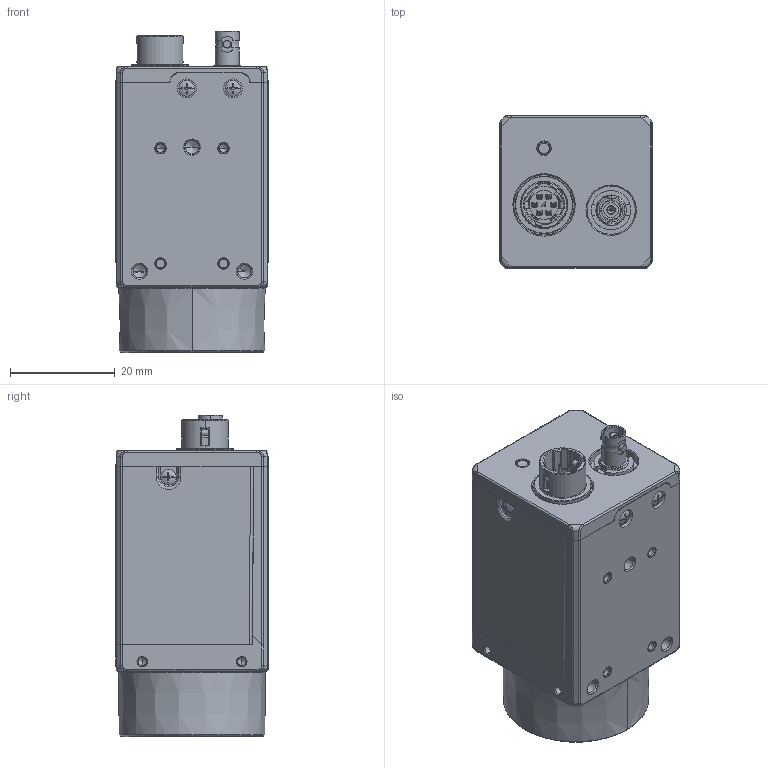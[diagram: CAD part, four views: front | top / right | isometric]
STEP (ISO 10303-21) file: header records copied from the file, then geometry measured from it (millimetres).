
FILE_DESCRIPTION((''),'2;1');
FILE_NAME('ASM0005_ASM','2025-11-20T09:51:54',('gengdawei'),(''),'CREO PARAMETRIC BY PTC INC, 2020044','CREO PARAMETRIC BY PTC INC, 2020044','');
FILE_SCHEMA(('CONFIG_CONTROL_DESIGN'));
Products named in the file (10): MV-CH120-90YMC; DE-13-002319B; 101306240_13; 101305125_15; MV_20084_JIEKOU_ASM_101_ASM; MV_20084_REV10_ASM_127_ASM; CXP000_ASM_4_ASM; 00-MV-CH120-90YMC_ASM_398_ASM; 210_ASM; ASM0005_ASM
Assembly tree (9 placements, depth 7):
  ASM0005_ASM
    MV-CH120-90YMC
    DE-13-002319B
    210_ASM
      00-MV-CH120-90YMC_ASM_398_ASM
        CXP000_ASM_4_ASM
          MV_20084_REV10_ASM_127_ASM
            MV_20084_JIEKOU_ASM_101_ASM
              101306240_13
              101305125_15
Bounding box: 29.03 x 29 x 61.23 mm (x, y, z)
Volume: 16628.2 mm3; surface area: 20764.6 mm2
Topology: 10 solids, 42 shells, 2475 faces, 7030 edges, 4612 vertices
Faces by surface type: plane 1146, cylinder 766, bspline 245, cone 183, torus 120, sphere 11, extrusion 4
Entity records: 110121 total; most frequent: CARTESIAN_POINT 47612, ORIENTED_EDGE 13884, DIRECTION 11946, EDGE_CURVE 6998, VERTEX_POINT 4612, AXIS2_PLACEMENT_3D 4223, VECTOR 3500, LINE 3496
